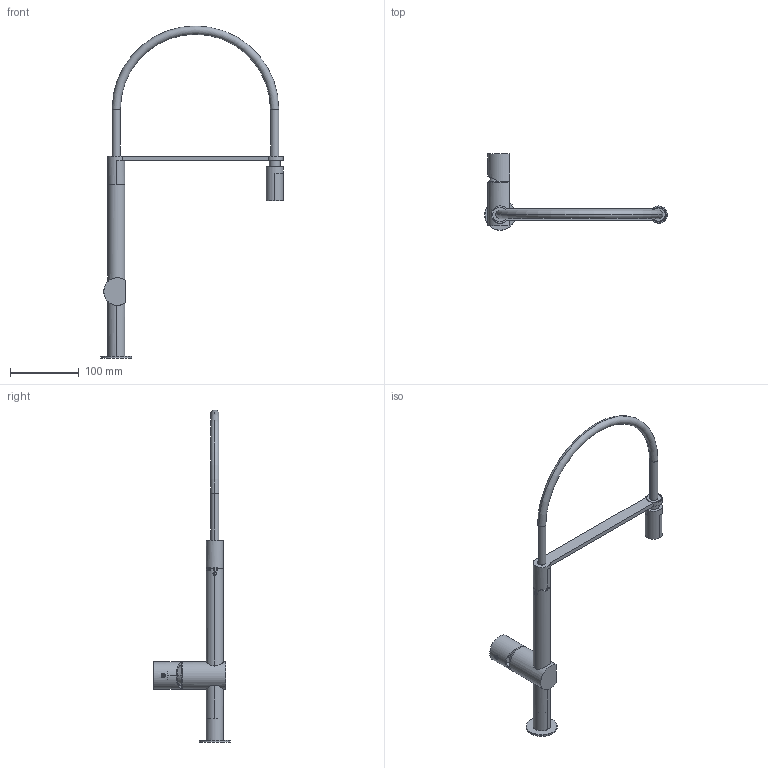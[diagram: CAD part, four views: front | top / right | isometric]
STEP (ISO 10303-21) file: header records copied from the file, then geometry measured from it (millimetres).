
FILE_DESCRIPTION((''),'2;1');
FILE_NAME('89172B21','2021-09-10T16:35:41',('carloff'),(''),'CREO PARAMETRIC BY PTC INC, 2018100','CREO PARAMETRIC BY PTC INC, 2018100','');
FILE_SCHEMA(('CONFIG_CONTROL_DESIGN'));
Length unit declared in the file: millimetre
Products named in the file (1): 89172B21
Bounding box: 265 x 111.3 x 482 mm (x, y, z)
Volume: 240300.4 mm3; surface area: 102565.6 mm2
Topology: 2 solids, 2 shells, 285 faces, 692 edges, 429 vertices
Faces by surface type: cylinder 119, plane 82, cone 48, torus 24, sphere 6, bspline 6
Entity records: 9289 total; most frequent: CARTESIAN_POINT 2464, DIRECTION 1539, ORIENTED_EDGE 1350, EDGE_CURVE 675, AXIS2_PLACEMENT_3D 650, VERTEX_POINT 427, CIRCLE 371, EDGE_LOOP 328
